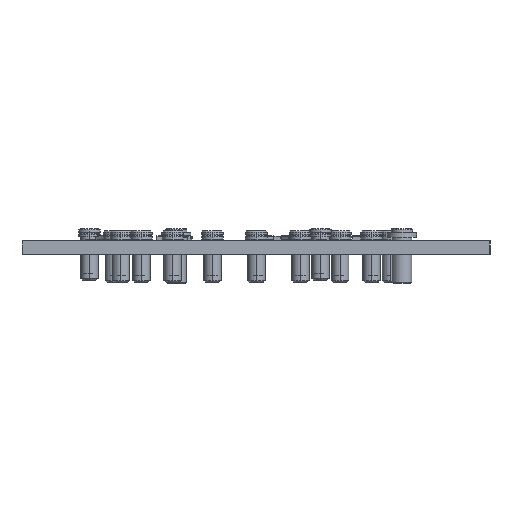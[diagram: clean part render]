
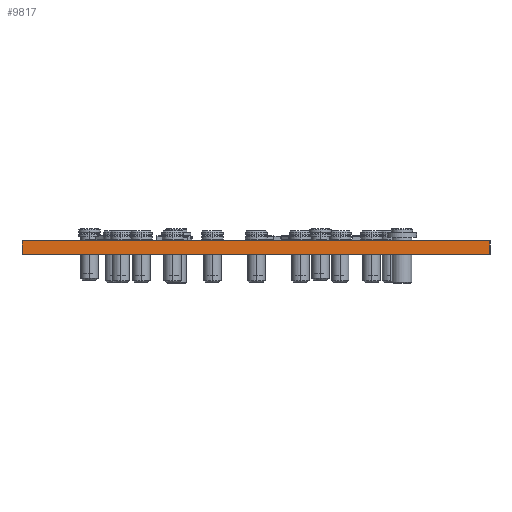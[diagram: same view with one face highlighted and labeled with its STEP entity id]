
A CAD part, left-side view. The second image highlights one B-rep face of the part: STEP entity #9817.
In plain terms, the highlighted planar face has unit normal (-1, 0, 0).
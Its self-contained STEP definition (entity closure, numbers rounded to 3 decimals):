
#9761 = VERTEX_POINT('',#9762);
#9762 = CARTESIAN_POINT('',(114.414,-125.085,1.51));
#9768 = EDGE_CURVE('',#9769,#9761,#9771,.T.);
#9769 = VERTEX_POINT('',#9770);
#9770 = CARTESIAN_POINT('',(114.414,-125.085,0.));
#9771 = LINE('',#9772,#9773);
#9772 = CARTESIAN_POINT('',(114.414,-125.085,0.));
#9773 = VECTOR('',#9774,1.);
#9774 = DIRECTION('',(0.,0.,1.));
#9817 = ADVANCED_FACE('',(#9818),#9843,.T.);
#9818 = FACE_BOUND('',#9819,.T.);
#9819 = EDGE_LOOP('',(#9820,#9821,#9829,#9837));
#9820 = ORIENTED_EDGE('',*,*,#9768,.T.);
#9821 = ORIENTED_EDGE('',*,*,#9822,.T.);
#9822 = EDGE_CURVE('',#9761,#9823,#9825,.T.);
#9823 = VERTEX_POINT('',#9824);
#9824 = CARTESIAN_POINT('',(114.414,-73.796,1.51));
#9825 = LINE('',#9826,#9827);
#9826 = CARTESIAN_POINT('',(114.414,-125.085,1.51));
#9827 = VECTOR('',#9828,1.);
#9828 = DIRECTION('',(0.,1.,0.));
#9829 = ORIENTED_EDGE('',*,*,#9830,.F.);
#9830 = EDGE_CURVE('',#9831,#9823,#9833,.T.);
#9831 = VERTEX_POINT('',#9832);
#9832 = CARTESIAN_POINT('',(114.414,-73.796,0.));
#9833 = LINE('',#9834,#9835);
#9834 = CARTESIAN_POINT('',(114.414,-73.796,0.));
#9835 = VECTOR('',#9836,1.);
#9836 = DIRECTION('',(0.,0.,1.));
#9837 = ORIENTED_EDGE('',*,*,#9838,.F.);
#9838 = EDGE_CURVE('',#9769,#9831,#9839,.T.);
#9839 = LINE('',#9840,#9841);
#9840 = CARTESIAN_POINT('',(114.414,-125.085,0.));
#9841 = VECTOR('',#9842,1.);
#9842 = DIRECTION('',(0.,1.,0.));
#9843 = PLANE('',#9844);
#9844 = AXIS2_PLACEMENT_3D('',#9845,#9846,#9847);
#9845 = CARTESIAN_POINT('',(114.414,-125.085,0.));
#9846 = DIRECTION('',(-1.,0.,0.));
#9847 = DIRECTION('',(0.,1.,0.));
